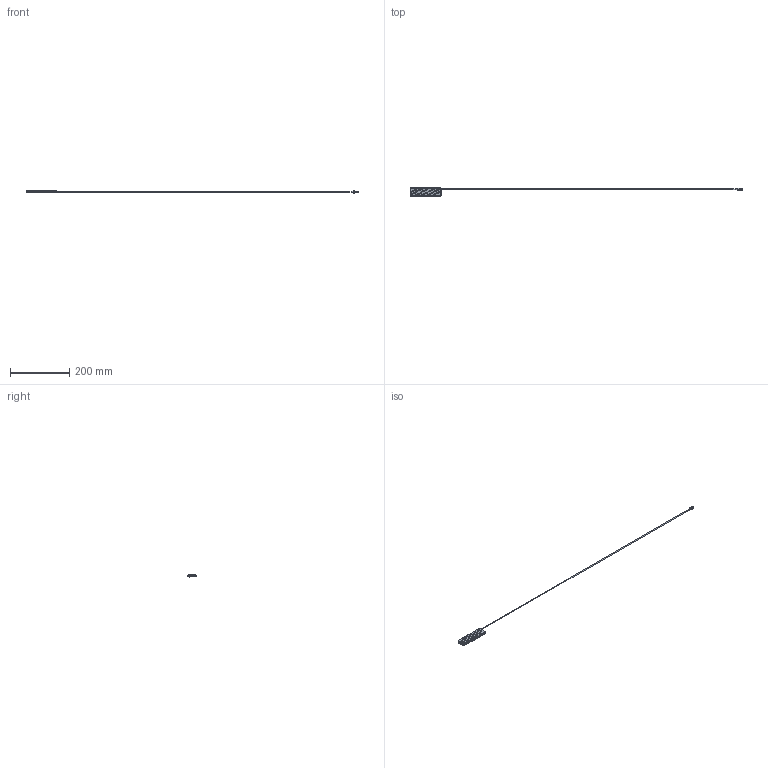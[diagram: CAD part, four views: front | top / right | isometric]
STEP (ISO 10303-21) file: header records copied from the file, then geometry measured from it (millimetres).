
FILE_DESCRIPTION((''),'2;1');
FILE_NAME('X1005323-W3A1SF10A1_ASM','2026-05-12T11:40:02',('mrodriguez'),(''),'CREO PARAMETRIC BY PTC INC, 2025443','CREO PARAMETRIC BY PTC INC, 2025443','');
FILE_SCHEMA(('AUTOMOTIVE_DESIGN { 1 0 10303 214 1 1 1 1 }'));
Products named in the file (4): CASE_5; PRT0001_1; X1005323-W3A1SF10A1_ASM_2_ASM; X1005323-W3A1SF10A1_ASM
Assembly tree (3 placements, depth 3):
  X1005323-W3A1SF10A1_ASM
    X1005323-W3A1SF10A1_ASM_2_ASM
      CASE_5
      PRT0001_1
Bounding box: 1119.9 x 30.1 x 9.24 mm (x, y, z)
Volume: 29178.6 mm3; surface area: 19047.2 mm2
Topology: 2 solids, 7 shells, 1662 faces, 4662 edges, 3128 vertices
Faces by surface type: plane 864, extrusion 640, cylinder 100, bspline 36, cone 22
Entity records: 77836 total; most frequent: CARTESIAN_POINT 23091, ORIENTED_EDGE 9287, DIRECTION 5837, EDGE_CURVE 4662, PRESENTATION_STYLE_ASSIGNMENT 4480, STYLED_ITEM 4361, CURVE_STYLE 4215, VECTOR 3645
